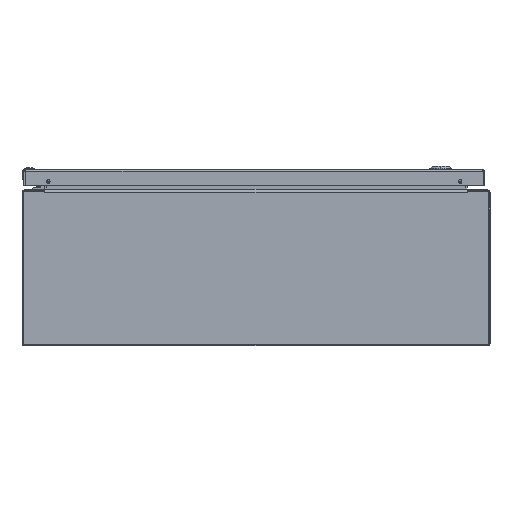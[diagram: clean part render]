
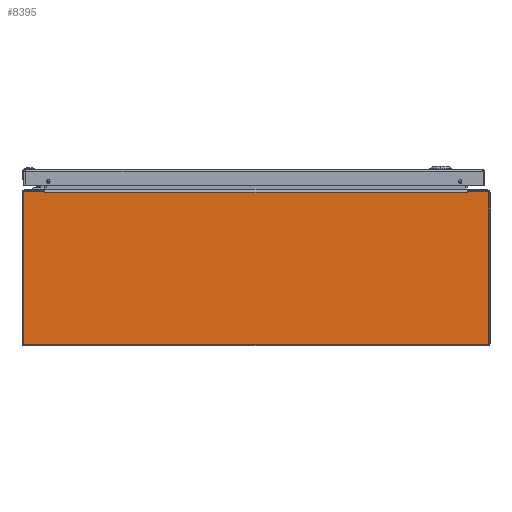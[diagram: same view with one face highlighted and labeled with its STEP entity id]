
A CAD part, front view. The second image highlights one B-rep face of the part: STEP entity #8395.
In plain terms, the highlighted planar face has unit normal (0, -1, 0).
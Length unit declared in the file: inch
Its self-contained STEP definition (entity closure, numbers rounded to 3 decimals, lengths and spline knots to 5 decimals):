
#7498=CARTESIAN_POINT('',(11.887,0.,3.897));
#7499=DIRECTION('',(0.,-1.,0.));
#7500=DIRECTION('',(1.,0.,0.));
#7501=AXIS2_PLACEMENT_3D('',#7498,#7499,#7500);
#7506=DIRECTION('',(0.,0.,-1.));
#7507=VECTOR('',#7506,7.764);
#7508=CARTESIAN_POINT('',(11.967,0.,3.897));
#7509=LINE('',#7508,#7507);
#7513=CARTESIAN_POINT('',(11.887,0.,-3.867));
#7514=DIRECTION('',(0.,-1.,0.));
#7515=DIRECTION('',(0.,0.,-1.));
#7516=AXIS2_PLACEMENT_3D('',#7513,#7514,#7515);
#7521=CARTESIAN_POINT('',(-11.887,0.,-3.867));
#7522=DIRECTION('',(0.,-1.,0.));
#7523=DIRECTION('',(-1.,0.,0.));
#7524=AXIS2_PLACEMENT_3D('',#7521,#7522,#7523);
#7529=DIRECTION('',(0.,0.,1.));
#7530=VECTOR('',#7529,7.764);
#7531=CARTESIAN_POINT('',(-11.967,0.,-3.867));
#7532=LINE('',#7531,#7530);
#7536=CARTESIAN_POINT('',(-11.887,0.,3.897));
#7537=DIRECTION('',(0.,-1.,0.));
#7538=DIRECTION('',(0.,0.,1.));
#7539=AXIS2_PLACEMENT_3D('',#7536,#7537,#7538);
#7551=DIRECTION('',(-1.,0.,0.));
#7552=VECTOR('',#7551,1.062);
#7553=CARTESIAN_POINT('',(11.887,0.,3.977));
#7554=LINE('',#7553,#7552);
#7579=DIRECTION('',(0.,0.,-1.));
#7580=VECTOR('',#7579,0.094);
#7581=CARTESIAN_POINT('',(10.825,0.,3.977));
#7582=LINE('',#7581,#7580);
#7722=DIRECTION('',(1.,0.,0.));
#7723=VECTOR('',#7722,21.65);
#7724=CARTESIAN_POINT('',(-10.825,0.,3.883));
#7725=LINE('',#7724,#7723);
#7766=DIRECTION('',(0.,0.,1.));
#7767=VECTOR('',#7766,0.094);
#7768=CARTESIAN_POINT('',(-10.825,0.,3.883));
#7769=LINE('',#7768,#7767);
#7801=DIRECTION('',(-1.,0.,0.));
#7802=VECTOR('',#7801,1.062);
#7803=CARTESIAN_POINT('',(-10.825,0.,3.977));
#7804=LINE('',#7803,#7802);
#7843=DIRECTION('',(1.,0.,0.));
#7844=VECTOR('',#7843,23.774);
#7845=CARTESIAN_POINT('',(-11.887,0.,-3.947));
#7846=LINE('',#7845,#7844);
#8248=CARTESIAN_POINT('',(-10.825,0.,3.883));
#8249=CARTESIAN_POINT('',(10.825,0.,3.883));
#8250=VERTEX_POINT('',#8248);
#8251=VERTEX_POINT('',#8249);
#8324=CARTESIAN_POINT('',(10.825,0.,3.977));
#8326=VERTEX_POINT('',#8324);
#8328=CARTESIAN_POINT('',(-10.825,0.,3.977));
#8330=VERTEX_POINT('',#8328);
#8332=CARTESIAN_POINT('',(11.967,0.,3.897));
#8333=CARTESIAN_POINT('',(11.887,0.,3.977));
#8334=VERTEX_POINT('',#8332);
#8335=VERTEX_POINT('',#8333);
#8340=CARTESIAN_POINT('',(11.887,0.,-3.947));
#8341=CARTESIAN_POINT('',(11.967,0.,-3.867));
#8342=VERTEX_POINT('',#8340);
#8343=VERTEX_POINT('',#8341);
#8348=CARTESIAN_POINT('',(-11.967,0.,-3.867));
#8349=CARTESIAN_POINT('',(-11.887,0.,-3.947));
#8350=VERTEX_POINT('',#8348);
#8351=VERTEX_POINT('',#8349);
#8356=CARTESIAN_POINT('',(-11.887,0.,3.977));
#8357=CARTESIAN_POINT('',(-11.967,0.,3.897));
#8358=VERTEX_POINT('',#8356);
#8359=VERTEX_POINT('',#8357);
#8364=CARTESIAN_POINT('',(0.,0.,0.));
#8365=DIRECTION('',(0.,-1.,0.));
#8366=DIRECTION('',(-1.,0.,0.));
#8367=AXIS2_PLACEMENT_3D('',#8364,#8365,#8366);
#8368=PLANE('',#8367);
#8370=ORIENTED_EDGE('',*,*,#8369,.F.);
#8372=ORIENTED_EDGE('',*,*,#8371,.T.);
#8374=ORIENTED_EDGE('',*,*,#8373,.F.);
#8376=ORIENTED_EDGE('',*,*,#8375,.F.);
#8378=ORIENTED_EDGE('',*,*,#8377,.F.);
#8380=ORIENTED_EDGE('',*,*,#8379,.T.);
#8382=ORIENTED_EDGE('',*,*,#8381,.F.);
#8384=ORIENTED_EDGE('',*,*,#8383,.F.);
#8386=ORIENTED_EDGE('',*,*,#8385,.F.);
#8388=ORIENTED_EDGE('',*,*,#8387,.T.);
#8390=ORIENTED_EDGE('',*,*,#8389,.F.);
#8392=ORIENTED_EDGE('',*,*,#8391,.F.);
#8393=EDGE_LOOP('',(#8370,#8372,#8374,#8376,#8378,#8380,#8382,#8384,#8386,#8388,
#8390,#8392));
#8394=FACE_OUTER_BOUND('',#8393,.F.);
#7502=CIRCLE('',#7501,0.08);
#7517=CIRCLE('',#7516,0.08);
#7525=CIRCLE('',#7524,0.08);
#7540=CIRCLE('',#7539,0.08);
#8369=EDGE_CURVE('',#8334,#8335,#7502,.T.);
#8371=EDGE_CURVE('',#8334,#8343,#7509,.T.);
#8373=EDGE_CURVE('',#8342,#8343,#7517,.T.);
#8375=EDGE_CURVE('',#8351,#8342,#7846,.T.);
#8377=EDGE_CURVE('',#8350,#8351,#7525,.T.);
#8379=EDGE_CURVE('',#8350,#8359,#7532,.T.);
#8381=EDGE_CURVE('',#8358,#8359,#7540,.T.);
#8383=EDGE_CURVE('',#8330,#8358,#7804,.T.);
#8385=EDGE_CURVE('',#8250,#8330,#7769,.T.);
#8387=EDGE_CURVE('',#8250,#8251,#7725,.T.);
#8389=EDGE_CURVE('',#8326,#8251,#7582,.T.);
#8391=EDGE_CURVE('',#8335,#8326,#7554,.T.);
#8395=ADVANCED_FACE('',(#8394),#8368,.T.);
